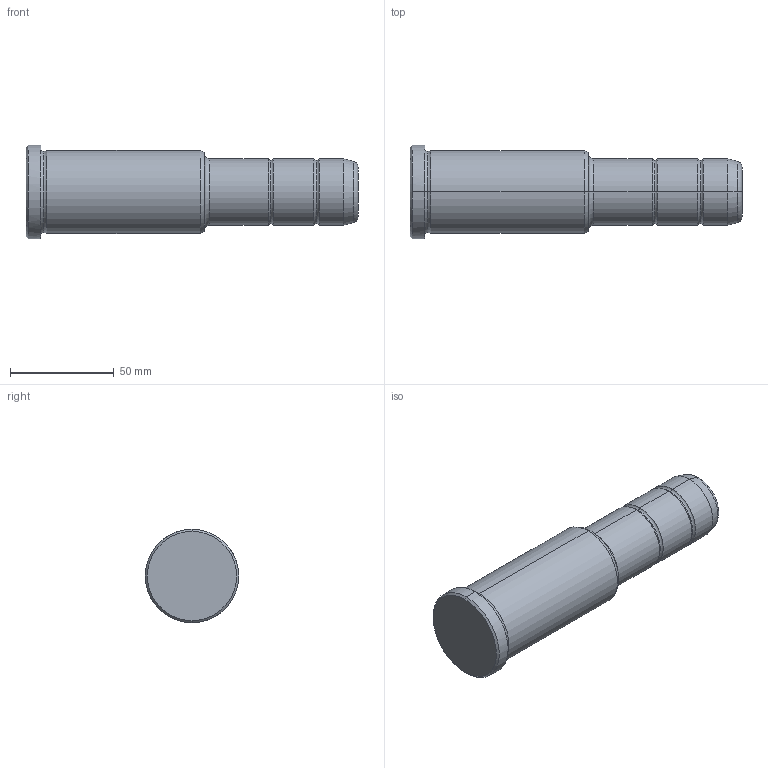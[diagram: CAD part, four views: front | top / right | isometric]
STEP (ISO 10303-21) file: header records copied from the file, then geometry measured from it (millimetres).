
FILE_DESCRIPTION(('CATIA V5 STEP Exchange'),'2;1');
FILE_NAME('C:\Users\Utente\Desktop\IO LAVORO\3D X SITO CF\X SITO\PLASTICA\351\351-32X86X160.stp','2021-09-10T12:28:40+00:00',('none'),('none'),'CATIA Version 5 Release 20 GA (IN-10)','CATIA V5 STEP AP203','none');
FILE_SCHEMA(('CONFIG_CONTROL_DESIGN'));
Length unit declared in the file: millimetre
Products named in the file (1): 351-32X86X160
Bounding box: 160 x 45 x 45 mm (x, y, z)
Volume: 168716.4 mm3; surface area: 21107.9 mm2
Topology: 1 solids, 1 shells, 36 faces, 102 edges, 70 vertices
Faces by surface type: torus 16, cylinder 10, cone 6, plane 4
Entity records: 1292 total; most frequent: CARTESIAN_POINT 321, ORIENTED_EDGE 204, DIRECTION 166, AXIS2_PLACEMENT_3D 115, EDGE_CURVE 102, CIRCLE 78, VERTEX_POINT 70, EDGE_LOOP 38
